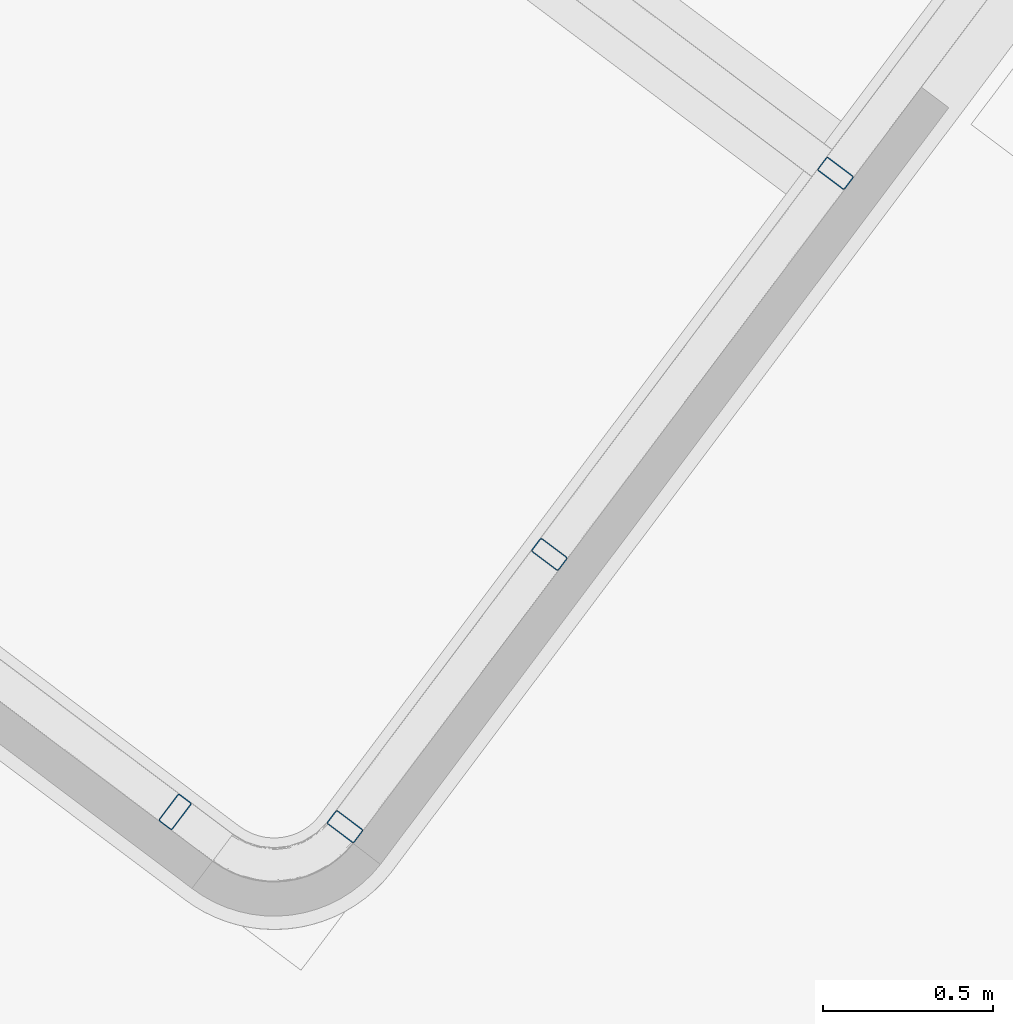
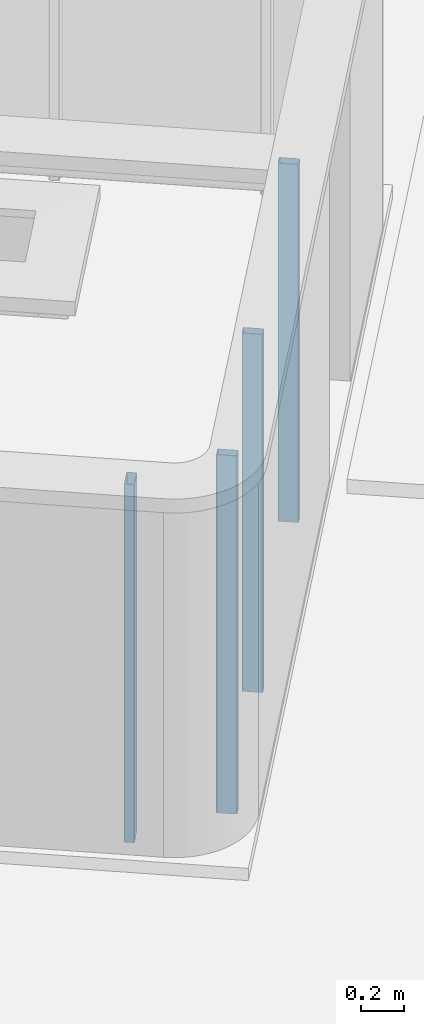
# One storey, part 5 of 28: 4 columns.
"""IFC2X3 building model written with IfcOpenShell, lengths in metres."""

from ifc_helpers import new_model, entity, si_unit, converted_unit, derived_unit, direction, frame, frame_2d, origin, place, context, subcontext, project, spatial, polyline, circle_curve, parameter, trimmed, segment, composite_curve, outline, extrude, source, transform, mapped, material, type_object, type_shapes, element, save


model = new_model("IFC2X3")

# Units and contexts
model_context = context("Model", 3, precision=1e-05, world=origin(), true_north=direction((6.123031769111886e-17, 1.0)))
body_context = subcontext(model_context, "Body", "Model", "MODEL_VIEW")
ifc_project = project(units=[si_unit("LENGTHUNIT", "METRE"), si_unit("AREAUNIT", "SQUARE_METRE"), si_unit("VOLUMEUNIT", "CUBIC_METRE"), converted_unit("PLANEANGLEUNIT", "DEGREE", entity("IfcRatioMeasure", 0.017453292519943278), si_unit("PLANEANGLEUNIT", "RADIAN"), dimensions=[0, 0, 0, 0, 0, 0, 0]), si_unit("MASSUNIT", "GRAM", prefix="KILO"), derived_unit("MASSDENSITYUNIT", [(si_unit("MASSUNIT", "GRAM", prefix="KILO"), 1), (si_unit("LENGTHUNIT", "METRE"), -3)]), derived_unit("IONCONCENTRATIONUNIT", [(si_unit("MASSUNIT", "GRAM", prefix="KILO"), 1), (si_unit("LENGTHUNIT", "METRE"), -3)]), derived_unit("MOMENTOFINERTIAUNIT", [(si_unit("LENGTHUNIT", "METRE"), 4)]), si_unit("TIMEUNIT", "SECOND"), si_unit("FREQUENCYUNIT", "HERTZ"), si_unit("THERMODYNAMICTEMPERATUREUNIT", "DEGREE_CELSIUS"), derived_unit("THERMALTRANSMITTANCEUNIT", [(si_unit("MASSUNIT", "GRAM", prefix="KILO"), 1), (si_unit("THERMODYNAMICTEMPERATUREUNIT", "KELVIN"), -1), (si_unit("TIMEUNIT", "SECOND"), -3)]), derived_unit("THERMALCONDUCTANCEUNIT", [(si_unit("MASSUNIT", "GRAM", prefix="KILO"), 1), (si_unit("THERMODYNAMICTEMPERATUREUNIT", "KELVIN"), -1), (si_unit("TIMEUNIT", "SECOND"), -3), (si_unit("LENGTHUNIT", "METRE"), 1)]), derived_unit("VOLUMETRICFLOWRATEUNIT", [(si_unit("LENGTHUNIT", "METRE"), 3), (si_unit("TIMEUNIT", "SECOND"), -1)]), derived_unit("MASSFLOWRATEUNIT", [(si_unit("MASSUNIT", "GRAM", prefix="KILO"), 1), (si_unit("TIMEUNIT", "SECOND"), -1)]), derived_unit("ROTATIONALFREQUENCYUNIT", [(si_unit("TIMEUNIT", "SECOND"), -1)]), si_unit("ELECTRICCURRENTUNIT", "AMPERE"), si_unit("ELECTRICVOLTAGEUNIT", "VOLT"), si_unit("POWERUNIT", "WATT"), si_unit("FORCEUNIT", "NEWTON", prefix="KILO"), si_unit("ILLUMINANCEUNIT", "LUX"), si_unit("LUMINOUSFLUXUNIT", "LUMEN"), si_unit("LUMINOUSINTENSITYUNIT", "CANDELA"), derived_unit("USERDEFINED", [(si_unit("MASSUNIT", "GRAM", prefix="KILO"), -1), (si_unit("LENGTHUNIT", "METRE"), -2), (si_unit("TIMEUNIT", "SECOND"), 3), (si_unit("LUMINOUSFLUXUNIT", "LUMEN"), 1)]), derived_unit("USERDEFINED", [(si_unit("MASSUNIT", "GRAM", prefix="KILO"), 1), (si_unit("TIMEUNIT", "SECOND"), -3), (si_unit("LENGTHUNIT", "METRE"), 3), (si_unit("ELECTRICCURRENTUNIT", "AMPERE"), -2)]), derived_unit("SOUNDPOWERUNIT", [(si_unit("MASSUNIT", "GRAM", prefix="KILO"), 1), (si_unit("TIMEUNIT", "SECOND"), -3), (si_unit("LENGTHUNIT", "METRE"), 2)]), derived_unit("SOUNDPRESSUREUNIT", [(si_unit("MASSUNIT", "GRAM", prefix="KILO"), 1), (si_unit("LENGTHUNIT", "METRE"), -1), (si_unit("TIMEUNIT", "SECOND"), -2)]), derived_unit("LINEARVELOCITYUNIT", [(si_unit("LENGTHUNIT", "METRE"), 1), (si_unit("TIMEUNIT", "SECOND"), -1)]), si_unit("PRESSUREUNIT", "PASCAL"), derived_unit("USERDEFINED", [(si_unit("MASSUNIT", "GRAM", prefix="KILO"), 1), (si_unit("LENGTHUNIT", "METRE"), -2), (si_unit("TIMEUNIT", "SECOND"), -2)]), derived_unit("LINEARFORCEUNIT", [(si_unit("MASSUNIT", "GRAM", prefix="KILO"), 1), (si_unit("TIMEUNIT", "SECOND"), -2)]), derived_unit("PLANARFORCEUNIT", [(si_unit("MASSUNIT", "GRAM", prefix="KILO"), 1), (si_unit("LENGTHUNIT", "METRE"), -1), (si_unit("TIMEUNIT", "SECOND"), -2)]), derived_unit("SPECIFICHEATCAPACITYUNIT", [(si_unit("THERMODYNAMICTEMPERATUREUNIT", "KELVIN"), -1), (si_unit("LENGTHUNIT", "METRE"), 2), (si_unit("TIMEUNIT", "SECOND"), -2)]), derived_unit("HEATINGVALUEUNIT", [(si_unit("LENGTHUNIT", "METRE"), 2), (si_unit("TIMEUNIT", "SECOND"), -2)]), derived_unit("VAPORPERMEABILITYUNIT", [(si_unit("LENGTHUNIT", "METRE"), -1), (si_unit("TIMEUNIT", "SECOND"), 1)]), derived_unit("DYNAMICVISCOSITYUNIT", [(si_unit("MASSUNIT", "GRAM", prefix="KILO"), 1), (si_unit("TIMEUNIT", "SECOND"), -1), (si_unit("LENGTHUNIT", "METRE"), -1)]), derived_unit("THERMALEXPANSIONCOEFFICIENTUNIT", [(si_unit("THERMODYNAMICTEMPERATUREUNIT", "KELVIN"), -1)]), derived_unit("MODULUSOFELASTICITYUNIT", [(si_unit("MASSUNIT", "GRAM", prefix="KILO"), 1), (si_unit("LENGTHUNIT", "METRE"), -1), (si_unit("TIMEUNIT", "SECOND"), -2)]), derived_unit("ISOTHERMALMOISTURECAPACITYUNIT", [(si_unit("LENGTHUNIT", "METRE"), 3), (si_unit("MASSUNIT", "GRAM", prefix="KILO"), -1)]), derived_unit("MOISTUREDIFFUSIVITYUNIT", [(si_unit("TIMEUNIT", "SECOND"), -1), (si_unit("LENGTHUNIT", "METRE"), 2)])], contexts=[model_context])

# Site, building, storey
site_placement = place(None, frame((0.0, 0.0, 235.0), z_axis=(0.0, 0.0, 1.0), x_axis=(-0.7996477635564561, 0.6004693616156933, 0.0)))
site = spatial("IfcSite", under=ifc_project, at=site_placement, Name="Default", CompositionType="ELEMENT")
building_placement = place(site_placement, origin())
building = spatial("IfcBuilding", under=site, at=building_placement, CompositionType="ELEMENT")
storey_placement = place(building_placement, frame((0.0, 0.0, 3.400000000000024)))
storey = spatial("IfcBuildingStorey", under=building, at=storey_placement, Name="PC- Coberta STR", CompositionType="ELEMENT", Elevation=3.400000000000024)

# Columns
ifc_material = material(Name="Metal - Acero - 345 MPa")
column_type = type_object("IfcColumnType", Name="STR- P- Acer- RHS- Rectangular- T1:100 x 50RHS", PredefinedType="COLUMN", material=ifc_material)
shared_shape = source(origin(), body_context, "Body", "SweptSolid", [
    extrude(outline(composite_curve([segment(polyline([(-0.01900000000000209, -0.04999999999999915), (0.019000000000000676, -0.04999999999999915)]), True, "CONTINUOUS"), segment(trimmed(circle_curve(frame_2d((0.019000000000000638, -0.04400000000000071), x_axis=(-1.0, 0.0)), 0.005999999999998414), [parameter(90.00000000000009)], [parameter(180.0000000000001)], True, "PARAMETER"), True, "CONTINUOUS"), segment(polyline([(0.024999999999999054, -0.044000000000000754), (0.02499999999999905, 0.044000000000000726)]), True, "CONTINUOUS"), segment(trimmed(circle_curve(frame_2d((0.018999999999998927, 0.044000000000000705), x_axis=(-1.0, 0.0)), 0.006000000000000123), [parameter(179.9999999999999)], [parameter(269.99999999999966)], True, "PARAMETER"), True, "CONTINUOUS"), segment(polyline([(0.018999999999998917, 0.05000000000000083), (-0.01899999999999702, 0.050000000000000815)]), True, "CONTINUOUS"), segment(trimmed(circle_curve(frame_2d((-0.018999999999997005, 0.043999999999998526), x_axis=(-1.0, 0.0)), 0.006000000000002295), [parameter(269.99999999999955)], [parameter(359.9999999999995)], True, "PARAMETER"), True, "CONTINUOUS"), segment(polyline([(-0.024999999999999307, 0.04399999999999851), (-0.024999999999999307, -0.04400000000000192)]), True, "CONTINUOUS"), segment(trimmed(circle_curve(frame_2d((-0.019000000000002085, -0.04400000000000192), x_axis=(-1.0, 0.0)), 0.005999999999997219), [parameter(359.9999999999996)], [parameter(89.99999999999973)], True, "PARAMETER"), True, "CONTINUOUS")], self_intersect=False), holes=[composite_curve([segment(trimmed(circle_curve(frame_2d((-0.019000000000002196, -0.044000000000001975), x_axis=(-1.0, 0.0)), 0.0029999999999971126), [parameter(0.0)], [parameter(90.00000000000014)], True, "PARAMETER"), False, "CONTINUOUS"), segment(polyline([(-0.021999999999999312, -0.044000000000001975), (-0.021999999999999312, 0.04400000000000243)]), True, "CONTINUOUS"), segment(trimmed(circle_curve(frame_2d((-0.019000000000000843, 0.04400000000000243), x_axis=(-1.0, 0.0)), 0.00299999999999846), [parameter(269.99999999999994)], [parameter(0.0)], True, "PARAMETER"), False, "CONTINUOUS"), segment(polyline([(-0.01900000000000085, 0.0470000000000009), (0.01899999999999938, 0.04700000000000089)]), True, "CONTINUOUS"), segment(trimmed(circle_curve(frame_2d((0.018999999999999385, 0.04399999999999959), x_axis=(-1.0, 0.0)), 0.0030000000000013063), [parameter(179.99999999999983)], [parameter(270.0)], True, "PARAMETER"), False, "CONTINUOUS"), segment(polyline([(0.022000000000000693, 0.04399999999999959), (0.022000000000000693, -0.04399999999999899)]), True, "CONTINUOUS"), segment(trimmed(circle_curve(frame_2d((0.019000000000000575, -0.043999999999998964), x_axis=(-1.0, 0.0)), 0.0030000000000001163), [parameter(90.00000000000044)], [parameter(180.0000000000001)], True, "PARAMETER"), False, "CONTINUOUS"), segment(polyline([(0.019000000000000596, -0.04699999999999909), (-0.019000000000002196, -0.04699999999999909)]), True, "CONTINUOUS")], self_intersect=False)]), frame((0.02658749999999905, 0.051587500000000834, 0.0), z_axis=(0.0, 0.0, 1.0), x_axis=(-1.0, 0.0, 0.0)), (0.0, 0.0, 1.0), 2.05),
])
type_shapes(column_type, [shared_shape])
for number, where, z_axis, x_axis, name in (
    (1, (32.06177293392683, -32.16360425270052, 0.4), (0.0, 0.0, 1.0), (-1.0, 0.0, 0.0), "STR- P- Acer- RHS- Rectangular- T1:100 x 50RHS"),
    (2, (31.55859787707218, -33.45360425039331, 0.4), (0.0, 0.0, 1.0), (0.0, -1.0, 0.0), "STR- P- Acer- RHS- Rectangular- T1:100 x 50RHS"),
    (3, (31.558597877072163, -34.85360425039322, 0.4), (0.0, 0.0, 1.0), (0.0, -1.0, 0.0), "STR- P- Acer- RHS- Rectangular- T1:100 x 50RHS"),
    (4, (31.5585978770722, -32.45360425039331, 0.4), (0.0, 0.0, 1.0), (0.0, -1.0, 0.0), "STR- P- Acer- RHS- Rectangular- T1:100 x 50RHS"),
):
    element("IfcColumn", number, at=place(storey_placement, frame(where, z_axis=z_axis, x_axis=x_axis)), inside=storey, type_object=column_type, material=ifc_material, Name=name, ObjectType="STR- P- Acer- RHS- Rectangular- T1:100 x 50RHS", context=body_context, shape_type="MappedRepresentation", body=[
        mapped(shared_shape, transform((0.0, 0.0, 0.0), scale=1.0)),
    ])

save(model, "model.ifc")
